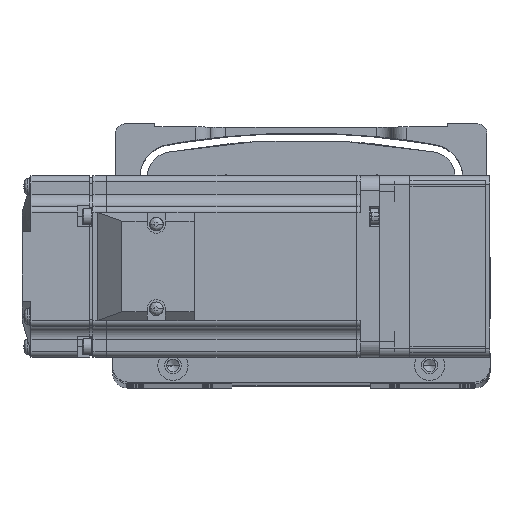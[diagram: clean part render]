
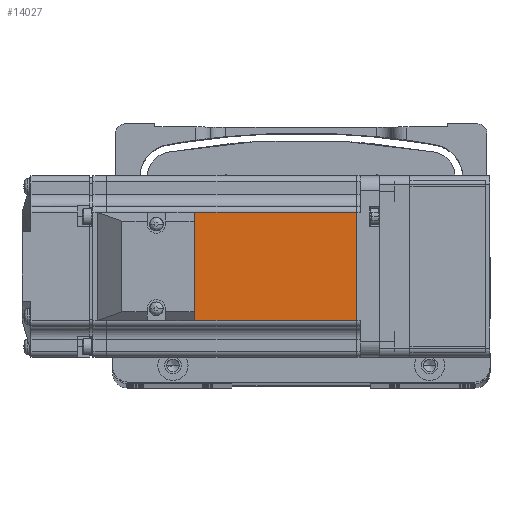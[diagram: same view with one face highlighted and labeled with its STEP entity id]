
A CAD part, top view. The second image highlights one B-rep face of the part: STEP entity #14027.
In plain terms, the highlighted planar face has unit normal (0, 0, 1) as drawn and (0, 1, 0) by its records, which use the part's own axes.
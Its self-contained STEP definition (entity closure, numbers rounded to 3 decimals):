
#1028 = VECTOR ( 'NONE', #56086, 1000. ) ;
#2758 = CARTESIAN_POINT ( 'NONE',  ( -7.75, 30., 18. ) ) ;
#3252 = EDGE_CURVE ( 'NONE', #77812, #24063, #10329, .T. ) ;
#3679 = CARTESIAN_POINT ( 'NONE',  ( -7.75, 30., 0. ) ) ;
#7765 = EDGE_CURVE ( 'NONE', #77812, #83124, #8765, .T. ) ;
#8765 = LINE ( 'NONE', #35752, #56033 ) ;
#10329 = LINE ( 'NONE', #3679, #59628 ) ;
#10353 = DIRECTION ( 'NONE',  ( 0., 1., 0. ) ) ;
#14027 = ADVANCED_FACE ( 'NONE', ( #16892 ), #48632, .T. ) ;
#14879 = VECTOR ( 'NONE', #34326, 1000. ) ;
#16892 = FACE_OUTER_BOUND ( 'NONE', #66554, .T. ) ;
#24063 = VERTEX_POINT ( 'NONE', #2758 ) ;
#29319 = DIRECTION ( 'NONE',  ( -1., 0., 0. ) ) ;
#30686 = EDGE_CURVE ( 'NONE', #83124, #32191, #64196, .T. ) ;
#32191 = VERTEX_POINT ( 'NONE', #56610 ) ;
#33252 = LINE ( 'NONE', #49640, #1028 ) ;
#34326 = DIRECTION ( 'NONE',  ( 0., 0., 1. ) ) ;
#35752 = CARTESIAN_POINT ( 'NONE',  ( -6.5, 30., -18. ) ) ;
#37419 = ORIENTED_EDGE ( 'NONE', *, *, #30686, .T. ) ;
#40806 = CARTESIAN_POINT ( 'NONE',  ( -90.45, 30., 0. ) ) ;
#46628 = AXIS2_PLACEMENT_3D ( 'NONE', #48898, #10353, #55330 ) ;
#48632 = PLANE ( 'NONE',  #46628 ) ;
#48686 = DIRECTION ( 'NONE',  ( 0., 0., 1. ) ) ;
#48898 = CARTESIAN_POINT ( 'NONE',  ( -6.5, 30., 25. ) ) ;
#49640 = CARTESIAN_POINT ( 'NONE',  ( -6.5, 30., 18. ) ) ;
#51671 = CARTESIAN_POINT ( 'NONE',  ( -90.45, 30., -18. ) ) ;
#55102 = ORIENTED_EDGE ( 'NONE', *, *, #75543, .T. ) ;
#55330 = DIRECTION ( 'NONE',  ( 0., 0., 1. ) ) ;
#56033 = VECTOR ( 'NONE', #29319, 1000. ) ;
#56086 = DIRECTION ( 'NONE',  ( 1., 0., 0. ) ) ;
#56610 = CARTESIAN_POINT ( 'NONE',  ( -90.45, 30., 18. ) ) ;
#57033 = ORIENTED_EDGE ( 'NONE', *, *, #3252, .F. ) ;
#58287 = ORIENTED_EDGE ( 'NONE', *, *, #7765, .T. ) ;
#59628 = VECTOR ( 'NONE', #48686, 1000. ) ;
#61421 = CARTESIAN_POINT ( 'NONE',  ( -7.75, 30., -18. ) ) ;
#64196 = LINE ( 'NONE', #40806, #14879 ) ;
#66554 = EDGE_LOOP ( 'NONE', ( #57033, #58287, #37419, #55102 ) ) ;
#75543 = EDGE_CURVE ( 'NONE', #32191, #24063, #33252, .T. ) ;
#77812 = VERTEX_POINT ( 'NONE', #61421 ) ;
#83124 = VERTEX_POINT ( 'NONE', #51671 ) ;
